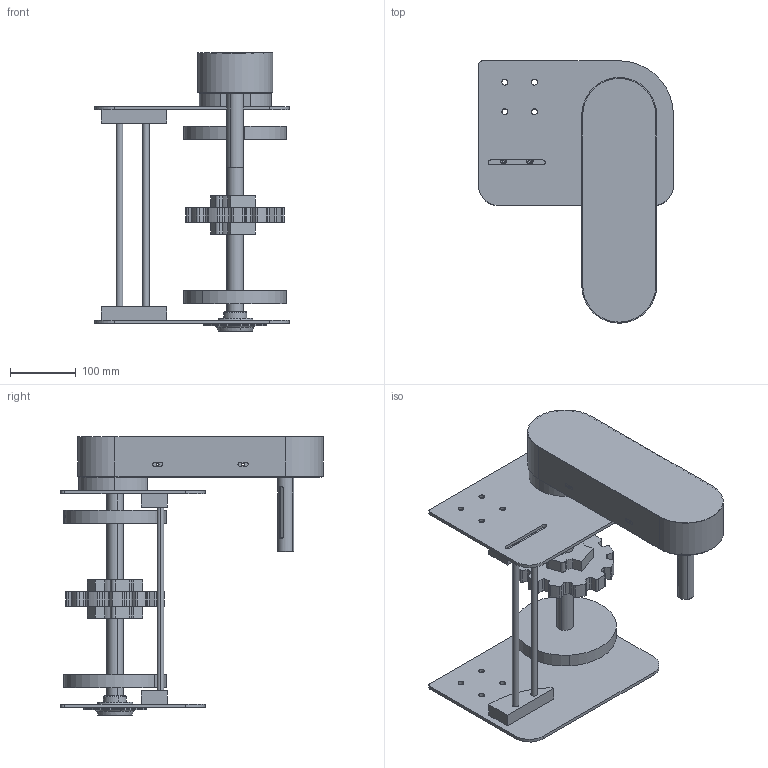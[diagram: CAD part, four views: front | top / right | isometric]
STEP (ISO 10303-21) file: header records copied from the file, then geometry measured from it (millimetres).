
FILE_DESCRIPTION (( 'STEP AP203' ), '1' );
FILE_NAME ('2000.1200.363.STEP', '2013-01-29T14:40:54', ( 'Alusic' ), ( 'Alusic' ), 'SwSTEP 2.0', 'SolidWorks 2011', '' );
FILE_SCHEMA (( 'CONFIG_CONTROL_DESIGN' ));
Length unit declared in the file: millimetre
Products named in the file (15): 2000.1200.363; 2000.001.312; 084.802.010; RUOTE DI TRAINO NS882_NS882T12R25; 2000.1200.104; 2000.001.015; 084.802.021; 2000.001.309; 2000.001.310; 2000.001.311; 2000.001.014; SBPF 205; 2000.1200.101; 2000.001.013; 2000.001.012
Assembly tree (18 placements, depth 2):
  2000.1200.363
    2000.001.015  x2
    2000.1200.104  x2
    2000.001.311
    084.802.010
    2000.001.014  x2
    2000.001.309
    SBPF 205
    2000.001.312  x2
    2000.001.013
    2000.1200.101
    2000.001.012
    2000.001.310
    RUOTE DI TRAINO NS882_NS882T12R25
    084.802.021
Bounding box: 296.5 x 399.5 x 424 mm (x, y, z)
Volume: 2851743.6 mm3; surface area: 873513.2 mm2
Topology: 20 solids, 20 shells, 763 faces, 2056 edges, 1344 vertices
Faces by surface type: cylinder 407, plane 298, cone 32, torus 16, sphere 10
Entity records: 22151 total; most frequent: CARTESIAN_POINT 3880, DIRECTION 3668, ORIENTED_EDGE 3332, EDGE_CURVE 1666, AXIS2_PLACEMENT_3D 1381, VERTEX_POINT 1097, VECTOR 906, LINE 906
